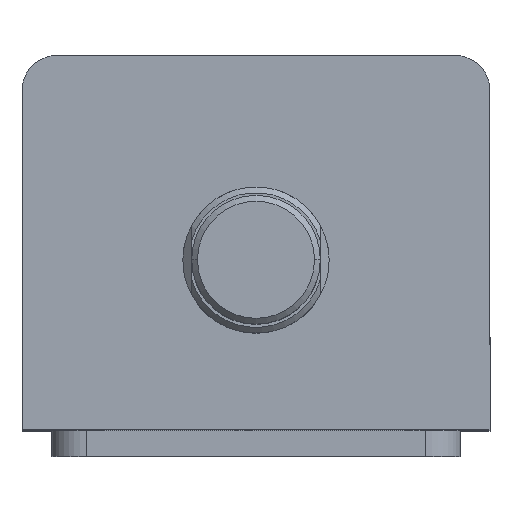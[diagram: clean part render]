
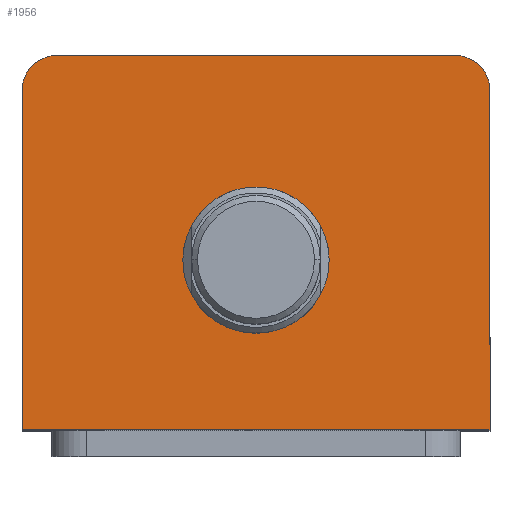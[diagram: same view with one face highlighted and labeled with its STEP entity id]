
A CAD part, top view. The second image highlights one B-rep face of the part: STEP entity #1956.
In plain terms, the highlighted planar face has unit normal (0, 0, 1).
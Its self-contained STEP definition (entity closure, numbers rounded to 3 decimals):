
#173 = PLANE ( 'NONE',  #3716 ) ;
#177 = CARTESIAN_POINT ( 'NONE',  ( 0., 0., 115. ) ) ;
#466 = DIRECTION ( 'NONE',  ( 1., 0., 0. ) ) ;
#467 = DIRECTION ( 'NONE',  ( 0., 0., 1. ) ) ;
#475 = ORIENTED_EDGE ( 'NONE', *, *, #2099, .F. ) ;
#478 = ORIENTED_EDGE ( 'NONE', *, *, #1046, .F. ) ;
#619 = ORIENTED_EDGE ( 'NONE', *, *, #1018, .T. ) ;
#620 = ORIENTED_EDGE ( 'NONE', *, *, #1010, .T. ) ;
#621 = ORIENTED_EDGE ( 'NONE', *, *, #2140, .T. ) ;
#622 = ORIENTED_EDGE ( 'NONE', *, *, #1033, .T. ) ;
#623 = ORIENTED_EDGE ( 'NONE', *, *, #1029, .T. ) ;
#624 = ORIENTED_EDGE ( 'NONE', *, *, #2172, .T. ) ;
#739 = EDGE_LOOP ( 'NONE', ( #478, #475 ) ) ;
#755 = EDGE_LOOP ( 'NONE', ( #624, #623, #622, #621, #620, #619 ) ) ;
#1010 = EDGE_CURVE ( 'NONE', #2336, #2312, #2522, .T. ) ;
#1018 = EDGE_CURVE ( 'NONE', #2312, #2341, #2531, .T. ) ;
#1029 = EDGE_CURVE ( 'NONE', #2344, #2311, #2542, .T. ) ;
#1033 = EDGE_CURVE ( 'NONE', #2311, #2332, #2548, .T. ) ;
#1046 = EDGE_CURVE ( 'NONE', #2385, #2379, #2574, .T. ) ;
#1231 = DIRECTION ( 'NONE',  ( 1., 0., 0. ) ) ;
#1233 = DIRECTION ( 'NONE',  ( 0., 0., 1. ) ) ;
#1236 = CARTESIAN_POINT ( 'NONE',  ( 34., 26., 115. ) ) ;
#1304 = DIRECTION ( 'NONE',  ( 1., 0., 0. ) ) ;
#1305 = DIRECTION ( 'NONE',  ( 0., 0., 1. ) ) ;
#1306 = CARTESIAN_POINT ( 'NONE',  ( 0., -3., 115. ) ) ;
#1330 = DIRECTION ( 'NONE',  ( 0., 1., 0. ) ) ;
#1335 = DIRECTION ( 'NONE',  ( 0., -1., 0. ) ) ;
#1336 = CARTESIAN_POINT ( 'NONE',  ( -40., 32., 115. ) ) ;
#1338 = CARTESIAN_POINT ( 'NONE',  ( 40., 32., 115. ) ) ;
#1345 = DIRECTION ( 'NONE',  ( 1., 0., 0. ) ) ;
#1346 = DIRECTION ( 'NONE',  ( 0., 0., 1. ) ) ;
#1347 = CARTESIAN_POINT ( 'NONE',  ( -34., 26., 115. ) ) ;
#1549 = CIRCLE ( 'NONE', #2217, 12.5 ) ;
#1611 = LINE ( 'NONE', #2869, #1614 ) ;
#1614 = VECTOR ( 'NONE', #2868, 1000. ) ;
#1650 = LINE ( 'NONE', #3453, #1653 ) ;
#1653 = VECTOR ( 'NONE', #3452, 1000. ) ;
#1956 = ADVANCED_FACE ( 'NONE', ( #2761, #2766 ), #173, .T. ) ;
#2099 = EDGE_CURVE ( 'NONE', #2379, #2385, #1549, .T. ) ;
#2140 = EDGE_CURVE ( 'NONE', #2332, #2336, #1611, .T. ) ;
#2168 = AXIS2_PLACEMENT_3D ( 'NONE', #1236, #1233, #1231 ) ;
#2172 = EDGE_CURVE ( 'NONE', #2341, #2344, #1650, .T. ) ;
#2217 = AXIS2_PLACEMENT_3D ( 'NONE', #2866, #2958, #2841 ) ;
#2311 = VERTEX_POINT ( 'NONE', #3333 ) ;
#2312 = VERTEX_POINT ( 'NONE', #3332 ) ;
#2332 = VERTEX_POINT ( 'NONE', #3309 ) ;
#2336 = VERTEX_POINT ( 'NONE', #3305 ) ;
#2341 = VERTEX_POINT ( 'NONE', #3300 ) ;
#2344 = VERTEX_POINT ( 'NONE', #3378 ) ;
#2379 = VERTEX_POINT ( 'NONE', #3765 ) ;
#2385 = VERTEX_POINT ( 'NONE', #3776 ) ;
#2522 = LINE ( 'NONE', #1338, #2525 ) ;
#2525 = VECTOR ( 'NONE', #1330, 1000. ) ;
#2531 = CIRCLE ( 'NONE', #2168, 6. ) ;
#2542 = CIRCLE ( 'NONE', #2988, 6. ) ;
#2548 = LINE ( 'NONE', #1336, #2551 ) ;
#2551 = VECTOR ( 'NONE', #1335, 1000. ) ;
#2574 = CIRCLE ( 'NONE', #3009, 12.5 ) ;
#2761 = FACE_BOUND ( 'NONE', #739, .T. ) ;
#2766 = FACE_OUTER_BOUND ( 'NONE', #755, .T. ) ;
#2841 = DIRECTION ( 'NONE',  ( 1., 0., 0. ) ) ;
#2866 = CARTESIAN_POINT ( 'NONE',  ( 0., -3., 115. ) ) ;
#2868 = DIRECTION ( 'NONE',  ( 1., 0., 0. ) ) ;
#2869 = CARTESIAN_POINT ( 'NONE',  ( -40., -32., 115. ) ) ;
#2958 = DIRECTION ( 'NONE',  ( 0., 0., 1. ) ) ;
#2988 = AXIS2_PLACEMENT_3D ( 'NONE', #1347, #1346, #1345 ) ;
#3009 = AXIS2_PLACEMENT_3D ( 'NONE', #1306, #1305, #1304 ) ;
#3300 = CARTESIAN_POINT ( 'NONE',  ( 34., 32., 115. ) ) ;
#3305 = CARTESIAN_POINT ( 'NONE',  ( 40., -32., 115. ) ) ;
#3309 = CARTESIAN_POINT ( 'NONE',  ( -40., -32., 115. ) ) ;
#3332 = CARTESIAN_POINT ( 'NONE',  ( 40., 26., 115. ) ) ;
#3333 = CARTESIAN_POINT ( 'NONE',  ( -40., 26., 115. ) ) ;
#3378 = CARTESIAN_POINT ( 'NONE',  ( -34., 32., 115. ) ) ;
#3452 = DIRECTION ( 'NONE',  ( -1., 0., 0. ) ) ;
#3453 = CARTESIAN_POINT ( 'NONE',  ( -40., 32., 115. ) ) ;
#3716 = AXIS2_PLACEMENT_3D ( 'NONE', #177, #467, #466 ) ;
#3765 = CARTESIAN_POINT ( 'NONE',  ( -12.5, -3., 115. ) ) ;
#3776 = CARTESIAN_POINT ( 'NONE',  ( 12.5, -3., 115. ) ) ;
